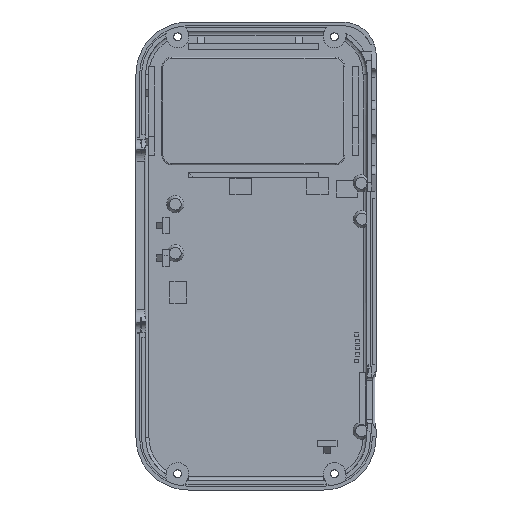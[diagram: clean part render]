
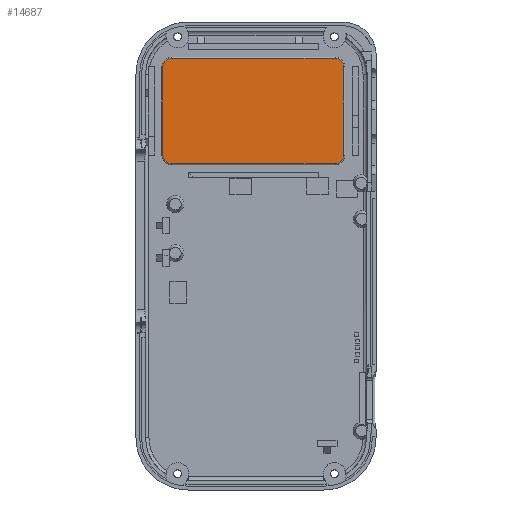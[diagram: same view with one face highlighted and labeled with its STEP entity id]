
A CAD part, top view. The second image highlights one B-rep face of the part: STEP entity #14687.
In plain terms, the highlighted planar face has unit normal (0, 0, 1).
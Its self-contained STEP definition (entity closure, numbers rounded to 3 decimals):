
#14476 = VERTEX_POINT('',#14477);
#14477 = CARTESIAN_POINT('',(7.5,128.75,2.4));
#14484 = EDGE_CURVE('',#14476,#14485,#14487,.T.);
#14485 = VERTEX_POINT('',#14486);
#14486 = CARTESIAN_POINT('',(7.5,101.75,2.4));
#14487 = LINE('',#14488,#14489);
#14488 = CARTESIAN_POINT('',(7.5,128.75,2.4));
#14489 = VECTOR('',#14490,1.);
#14490 = DIRECTION('',(0.,-1.,0.));
#14509 = VERTEX_POINT('',#14510);
#14510 = CARTESIAN_POINT('',(10.2,131.45,2.4));
#14519 = EDGE_CURVE('',#14509,#14476,#14520,.T.);
#14520 = CIRCLE('',#14521,2.7);
#14521 = AXIS2_PLACEMENT_3D('',#14522,#14523,#14524);
#14522 = CARTESIAN_POINT('',(10.2,128.75,2.4));
#14523 = DIRECTION('',(0.,-0.,1.));
#14524 = DIRECTION('',(0.,1.,0.));
#14537 = VERTEX_POINT('',#14538);
#14538 = CARTESIAN_POINT('',(10.2,99.05,2.4));
#14545 = EDGE_CURVE('',#14485,#14537,#14546,.T.);
#14546 = CIRCLE('',#14547,2.7);
#14547 = AXIS2_PLACEMENT_3D('',#14548,#14549,#14550);
#14548 = CARTESIAN_POINT('',(10.2,101.75,2.4));
#14549 = DIRECTION('',(0.,0.,1.));
#14550 = DIRECTION('',(-1.,0.,0.));
#14561 = VERTEX_POINT('',#14562);
#14562 = CARTESIAN_POINT('',(60.2,131.45,2.4));
#14569 = EDGE_CURVE('',#14561,#14509,#14570,.T.);
#14570 = LINE('',#14571,#14572);
#14571 = CARTESIAN_POINT('',(60.2,131.45,2.4));
#14572 = VECTOR('',#14573,1.);
#14573 = DIRECTION('',(-1.,0.,0.));
#14586 = EDGE_CURVE('',#14537,#14587,#14589,.T.);
#14587 = VERTEX_POINT('',#14588);
#14588 = CARTESIAN_POINT('',(60.2,99.05,2.4));
#14589 = LINE('',#14590,#14591);
#14590 = CARTESIAN_POINT('',(10.2,99.05,2.4));
#14591 = VECTOR('',#14592,1.);
#14592 = DIRECTION('',(1.,0.,0.));
#14611 = VERTEX_POINT('',#14612);
#14612 = CARTESIAN_POINT('',(62.9,128.75,2.4));
#14621 = EDGE_CURVE('',#14611,#14561,#14622,.T.);
#14622 = CIRCLE('',#14623,2.7);
#14623 = AXIS2_PLACEMENT_3D('',#14624,#14625,#14626);
#14624 = CARTESIAN_POINT('',(60.2,128.75,2.4));
#14625 = DIRECTION('',(0.,0.,1.));
#14626 = DIRECTION('',(1.,0.,0.));
#14639 = VERTEX_POINT('',#14640);
#14640 = CARTESIAN_POINT('',(62.9,101.75,2.4));
#14647 = EDGE_CURVE('',#14587,#14639,#14648,.T.);
#14648 = CIRCLE('',#14649,2.7);
#14649 = AXIS2_PLACEMENT_3D('',#14650,#14651,#14652);
#14650 = CARTESIAN_POINT('',(60.2,101.75,2.4));
#14651 = DIRECTION('',(-0.,0.,1.));
#14652 = DIRECTION('',(0.,-1.,0.));
#14663 = EDGE_CURVE('',#14639,#14611,#14664,.T.);
#14664 = LINE('',#14665,#14666);
#14665 = CARTESIAN_POINT('',(62.9,101.75,2.4));
#14666 = VECTOR('',#14667,1.);
#14667 = DIRECTION('',(0.,1.,0.));
#14687 = ADVANCED_FACE('',(#14688),#14698,.T.);
#14688 = FACE_BOUND('',#14689,.T.);
#14689 = EDGE_LOOP('',(#14690,#14691,#14692,#14693,#14694,#14695,#14696,
    #14697));
#14690 = ORIENTED_EDGE('',*,*,#14545,.T.);
#14691 = ORIENTED_EDGE('',*,*,#14586,.T.);
#14692 = ORIENTED_EDGE('',*,*,#14647,.T.);
#14693 = ORIENTED_EDGE('',*,*,#14663,.T.);
#14694 = ORIENTED_EDGE('',*,*,#14621,.T.);
#14695 = ORIENTED_EDGE('',*,*,#14569,.T.);
#14696 = ORIENTED_EDGE('',*,*,#14519,.T.);
#14697 = ORIENTED_EDGE('',*,*,#14484,.T.);
#14698 = PLANE('',#14699);
#14699 = AXIS2_PLACEMENT_3D('',#14700,#14701,#14702);
#14700 = CARTESIAN_POINT('',(35.2,115.25,2.4));
#14701 = DIRECTION('',(0.,0.,1.));
#14702 = DIRECTION('',(1.,0.,0.));
